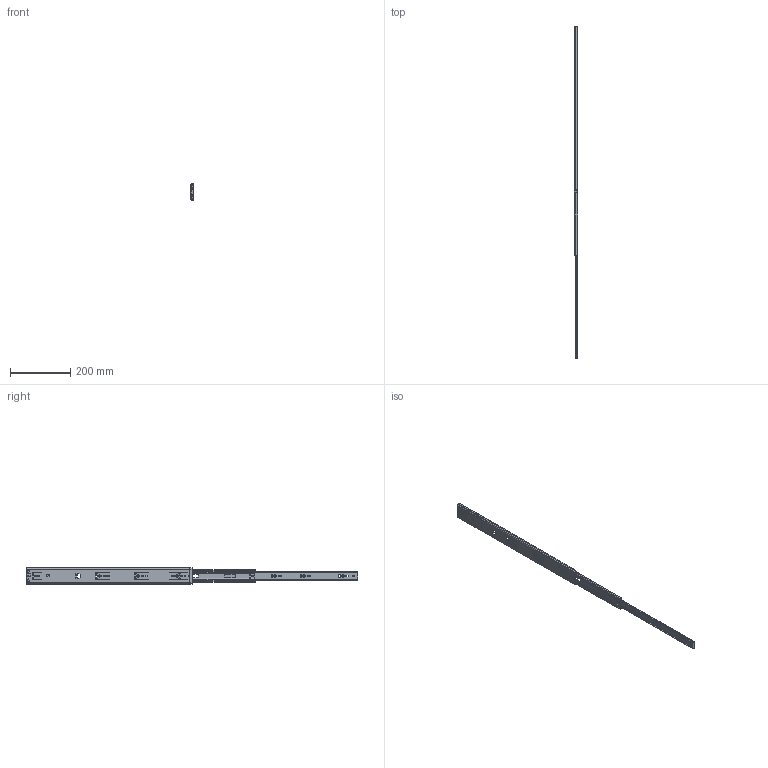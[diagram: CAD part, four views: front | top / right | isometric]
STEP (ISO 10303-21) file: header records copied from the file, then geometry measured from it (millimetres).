
FILE_DESCRIPTION( ( 'Unknown' ), '1' );
FILE_NAME( 'C:/Users/rd30/Desktop/85A01-550-Open.stp', 'Unknown', ( 'Unknown' ), ( 'Unknown' ), 'PSStep 14.0', 'Unknown', ' ' );
FILE_SCHEMA( ( 'AUTOMOTIVE_DESIGN { 1 0 10303 214 1 1 1 1 }' ) );
Length unit declared in the file: millimetre
Products named in the file (8): P10-366-3-1; P10-367-130429; 本體(卡式)20130423-\X2\4FEE6A21571\X0\; Assem1; 85A01P11-02-550; 85A01P21-03-550; 85A01P30-04-550; 85A01P30-04-B
Assembly tree (7 placements, depth 3):
  Assem1
    85A01P11-02-550
    85A01P21-03-550
    85A01P30-04-550
    85A01P30-04-B
    P10-366-3-1
      P10-367-130429
      本體(卡式)20130423-\X2\4FEE6A21571\X0\
Bounding box: 12.6 x 1099 x 55.37 mm (x, y, z)
Volume: 202197.6 mm3; surface area: 176491.1 mm2
Topology: 6 solids, 6 shells, 683 faces, 1960 edges, 1287 vertices
Faces by surface type: plane 332, cylinder 291, cone 32, torus 24, bspline 2, sphere 2
Full cylindrical faces by diameter (mm): 1.4 x1, 3 x1, 3.2 x1, 4.6 x1, 5 x4, 5.1 x1, 5.5 x1, 6.25 x1, 6.4 x3
Entity records: 28414 total; most frequent: CARTESIAN_POINT 4302, DIRECTION 3876, ORIENTED_EDGE 3858, EDGE_CURVE 1929, AXIS2_PLACEMENT_3D 1341, VERTEX_POINT 1275, LINE 1194, VECTOR 1194
